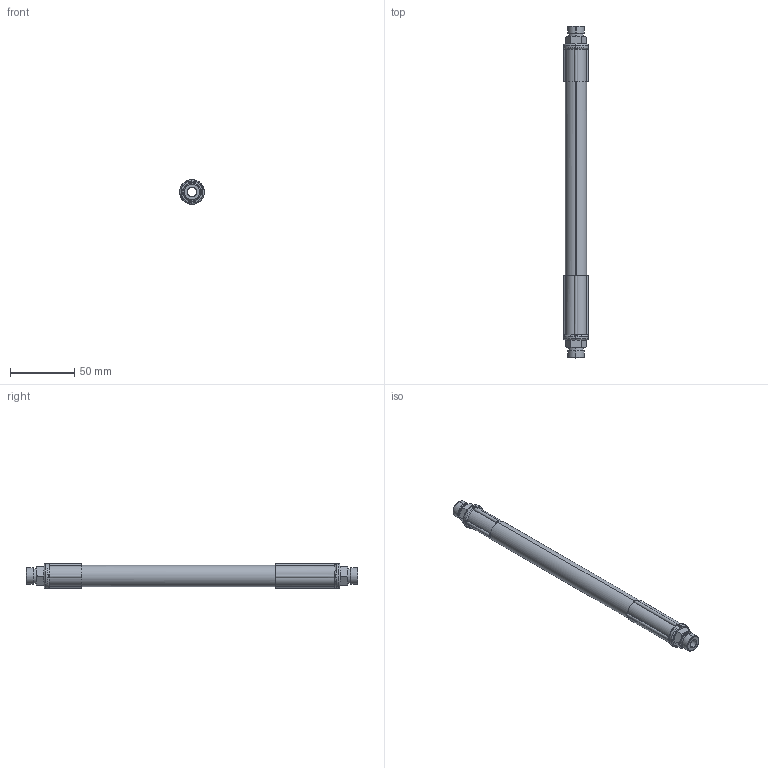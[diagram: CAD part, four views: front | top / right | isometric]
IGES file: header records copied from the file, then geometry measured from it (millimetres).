
Start section: SolidWorks IGES file using analytic representation for surfaces
Global section: file name: P:\SILVENT AB\ENGINEERING\Drawings\Övrigt\IGES\Silvent 830.IGS; native system: SolidWorks 2011; preprocessor: SolidWorks 2011; author: p.svensson; date: 130129.144914; units: millimetre
Bounding box: 19 x 258 x 19 mm (x, y, z)
Surface area: 20262.5 mm2 (no closed solid volume)
Topology: 0 solids, 0 shells, 168 faces, 1946 edges, 1938 vertices
Faces by surface type: bspline 92, revolution 76
